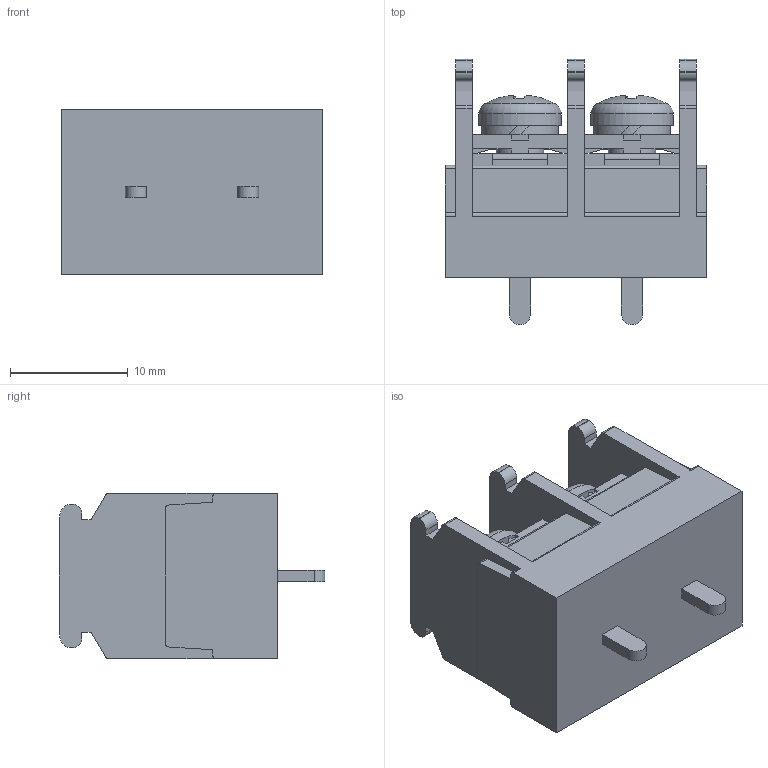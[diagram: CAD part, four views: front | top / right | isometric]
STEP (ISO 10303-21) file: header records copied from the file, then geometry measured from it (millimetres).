
FILE_DESCRIPTION(/* description */ ('Alibre Inc.'),/* implementation_level */ '2;1');
FILE_NAME(/* name */ 'export-060CEBC1-3187-4A5C-84C8-17523D1D9D4C',/* time_stamp */ '2021-02-13T13:56:01+09:00',/* author */ (''),/* organization */ (''),/* preprocessor_version */ 'ST-DEVELOPER v17',/* originating_system */ 'Alibre',/* authorisation */ '');
FILE_SCHEMA (('CONFIG_CONTROL_DESIGN'));
Length unit declared in the file: millimetre
Bounding box: 22.2 x 22.5 x 14 mm (x, y, z)
Volume: 3788.8 mm3; surface area: 2803.8 mm2
Topology: 1 solids, 19 shells, 648 faces, 1756 edges, 1162 vertices
Faces by surface type: plane 472, bspline 104, cylinder 56, cone 10, torus 4, sphere 2
Full cylindrical faces by diameter (mm): 4 x4, 7 x2
Entity records: 19609 total; most frequent: CARTESIAN_POINT 4486, ORIENTED_EDGE 3480, DIRECTION 2248, EDGE_CURVE 1740, VECTOR 1308, LINE 1308, VERTEX_POINT 1158, EDGE_LOOP 700
